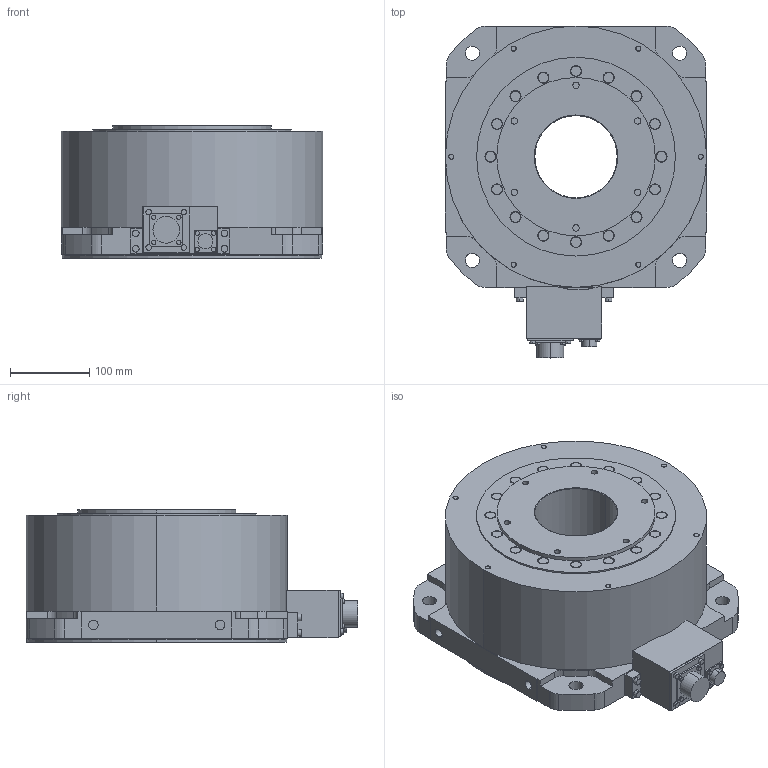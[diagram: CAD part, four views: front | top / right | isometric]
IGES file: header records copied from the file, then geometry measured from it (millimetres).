
Start section: SolidWorks IGES file using analytic representation for surfaces
Global section: file name: C:\work\tm-rfm120j10_a.igs; native system: SolidWorks 2006 by SolidWorks Corporation; preprocessor: SolidWorks 2006 by SolidWorks Corporation; author: user; date: 091204.101958; units: millimetre
Bounding box: 330 x 419 x 167.5 mm (x, y, z)
Volume: 13453848.2 mm3; surface area: 597673.5 mm2
Topology: 1 solids, 1 shells, 375 faces, 850 edges, 566 vertices
Faces by surface type: revolution 229, plane 146
